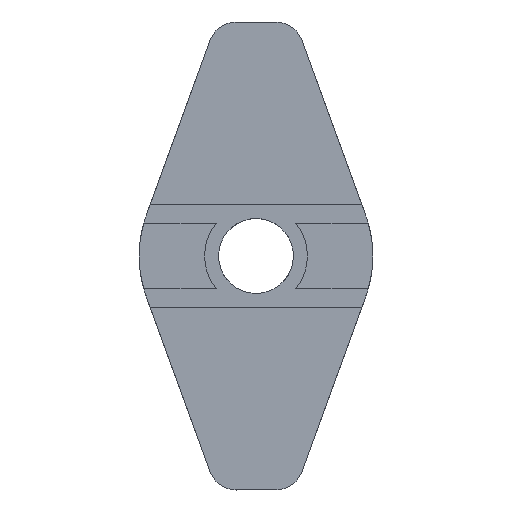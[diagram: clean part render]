
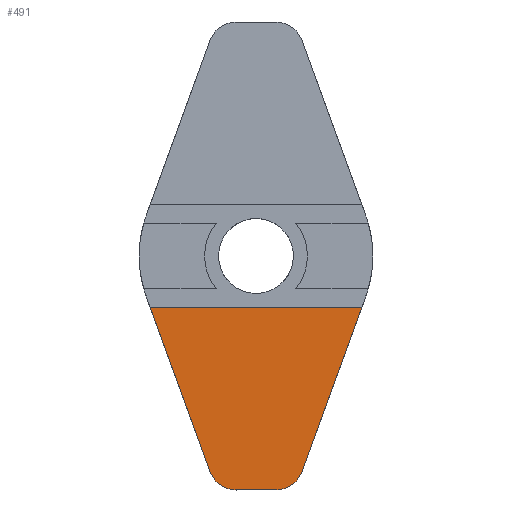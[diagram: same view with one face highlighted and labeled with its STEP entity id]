
A CAD part, top view. The second image highlights one B-rep face of the part: STEP entity #491.
In plain terms, the highlighted planar face has unit normal (0, 0, 1).
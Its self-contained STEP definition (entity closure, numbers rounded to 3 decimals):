
#321=CARTESIAN_POINT('',(11.3,-5.5,1.5));
#322=VERTEX_POINT('',#321);
#323=CARTESIAN_POINT('',(-11.3,-5.5,1.5));
#324=VERTEX_POINT('',#323);
#325=CARTESIAN_POINT('',(11.3,-5.5,1.5));
#326=DIRECTION('',(-1.0,0.0,0.0));
#327=VECTOR('',#326,22.601);
#328=LINE('',#325,#327);
#329=EDGE_CURVE('',#322,#324,#328,.T.);
#443=CARTESIAN_POINT('',(0.,0.,1.5));
#444=DIRECTION('',(0.0,0.0,1.0));
#445=DIRECTION('',(1.0,0.0,0.0));
#446=AXIS2_PLACEMENT_3D('',#443,#444,#445);
#447=PLANE('',#446);
#448=ORIENTED_EDGE('',*,*,#329,.T.);
#449=CARTESIAN_POINT('',(-4.919,-23.026,1.5));
#450=VERTEX_POINT('',#449);
#451=CARTESIAN_POINT('',(-4.919,-23.026,1.5));
#452=DIRECTION('',(-0.342,0.94,0.0));
#453=VECTOR('',#452,18.652);
#454=LINE('',#451,#453);
#455=EDGE_CURVE('',#450,#324,#454,.T.);
#456=ORIENTED_EDGE('',*,*,#455,.F.);
#457=CARTESIAN_POINT('',(-2.1,-25.,1.5));
#458=VERTEX_POINT('',#457);
#459=CARTESIAN_POINT('',(-2.1,-22.,1.5));
#460=DIRECTION('',(0.0,0.0,-1.0));
#461=DIRECTION('',(1.0,0.0,0.0));
#462=AXIS2_PLACEMENT_3D('',#459,#460,#461);
#463=CIRCLE('',#462,3.);
#464=EDGE_CURVE('',#458,#450,#463,.T.);
#465=ORIENTED_EDGE('',*,*,#464,.F.);
#466=CARTESIAN_POINT('',(2.1,-25.0,1.5));
#467=VERTEX_POINT('',#466);
#468=CARTESIAN_POINT('',(2.1,-25.0,1.5));
#469=DIRECTION('',(-1.0,0.0,0.0));
#470=VECTOR('',#469,4.201);
#471=LINE('',#468,#470);
#472=EDGE_CURVE('',#467,#458,#471,.T.);
#473=ORIENTED_EDGE('',*,*,#472,.F.);
#474=CARTESIAN_POINT('',(4.919,-23.026,1.5));
#475=VERTEX_POINT('',#474);
#476=CARTESIAN_POINT('',(2.1,-22.0,1.5));
#477=DIRECTION('',(0.0,0.0,-1.0));
#478=DIRECTION('',(1.0,0.0,0.0));
#479=AXIS2_PLACEMENT_3D('',#476,#477,#478);
#480=CIRCLE('',#479,3.);
#481=EDGE_CURVE('',#475,#467,#480,.T.);
#482=ORIENTED_EDGE('',*,*,#481,.F.);
#483=CARTESIAN_POINT('',(11.3,-5.5,1.5));
#484=DIRECTION('',(-0.342,-0.94,0.0));
#485=VECTOR('',#484,18.652);
#486=LINE('',#483,#485);
#487=EDGE_CURVE('',#322,#475,#486,.T.);
#488=ORIENTED_EDGE('',*,*,#487,.F.);
#489=EDGE_LOOP('',(#448,#456,#465,#473,#482,#488));
#490=FACE_OUTER_BOUND('',#489,.T.);
#491=ADVANCED_FACE('',(#490),#447,.T.);
